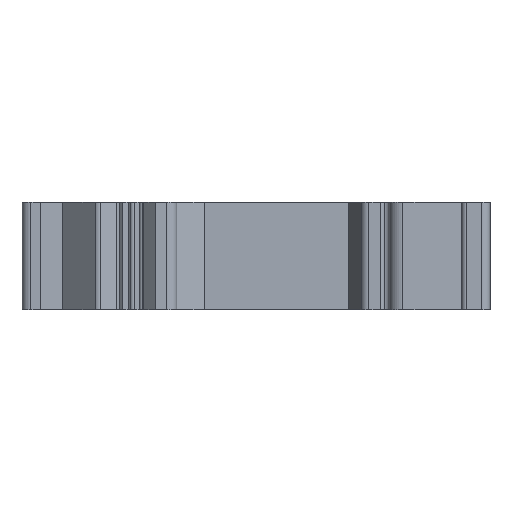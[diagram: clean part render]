
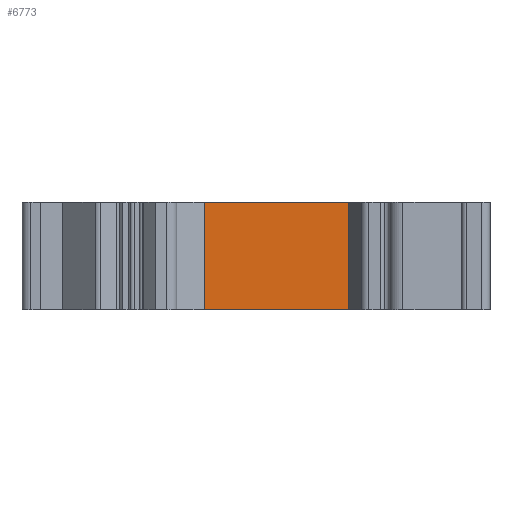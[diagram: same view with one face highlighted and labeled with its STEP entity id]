
A CAD part, left-side view. The second image highlights one B-rep face of the part: STEP entity #6773.
In plain terms, the highlighted planar face has unit normal (-1, 0, 0).
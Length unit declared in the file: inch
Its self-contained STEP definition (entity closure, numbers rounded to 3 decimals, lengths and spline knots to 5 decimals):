
#139=DIRECTION('',(0.,-1.,0.));
#140=VECTOR('',#139,16.3);
#141=CARTESIAN_POINT('',(171.82876,-1504.47174,0.));
#142=LINE('',#141,#140);
#1145=DIRECTION('',(0.,0.,1.));
#1146=VECTOR('',#1145,12.2);
#1147=CARTESIAN_POINT('',(171.82876,-1520.77174,0.));
#1148=LINE('',#1147,#1146);
#1149=DIRECTION('',(0.,0.,1.));
#1150=VECTOR('',#1149,12.2);
#1151=CARTESIAN_POINT('',(171.82876,-1504.47174,0.));
#1152=LINE('',#1151,#1150);
#1796=DIRECTION('',(0.,-1.,0.));
#1797=VECTOR('',#1796,16.3);
#1798=CARTESIAN_POINT('',(171.82876,-1504.47174,12.2));
#1799=LINE('',#1798,#1797);
#3667=CARTESIAN_POINT('',(171.82876,-1504.47174,0.));
#3668=VERTEX_POINT('',#3667);
#3669=CARTESIAN_POINT('',(171.82876,-1520.77174,0.));
#3670=VERTEX_POINT('',#3669);
#3971=CARTESIAN_POINT('',(171.82876,-1504.47174,12.2));
#3972=VERTEX_POINT('',#3971);
#3973=CARTESIAN_POINT('',(171.82876,-1520.77174,12.2));
#3974=VERTEX_POINT('',#3973);
#6760=CARTESIAN_POINT('',(171.82876,-1504.47174,0.));
#6761=DIRECTION('',(-1.,0.,0.));
#6762=DIRECTION('',(0.,-1.,0.));
#6763=AXIS2_PLACEMENT_3D('',#6760,#6761,#6762);
#6764=PLANE('',#6763);
#6765=ORIENTED_EDGE('',*,*,#4840,.F.);
#6767=ORIENTED_EDGE('',*,*,#6766,.T.);
#6769=ORIENTED_EDGE('',*,*,#6768,.T.);
#6770=ORIENTED_EDGE('',*,*,#6752,.F.);
#6771=EDGE_LOOP('',(#6765,#6767,#6769,#6770));
#6772=FACE_OUTER_BOUND('',#6771,.F.);
#6773=ADVANCED_FACE('',(#6772),#6764,.T.);
#4840=EDGE_CURVE('',#3668,#3670,#142,.T.);
#6752=EDGE_CURVE('',#3670,#3974,#1148,.T.);
#6766=EDGE_CURVE('',#3668,#3972,#1152,.T.);
#6768=EDGE_CURVE('',#3972,#3974,#1799,.T.);
